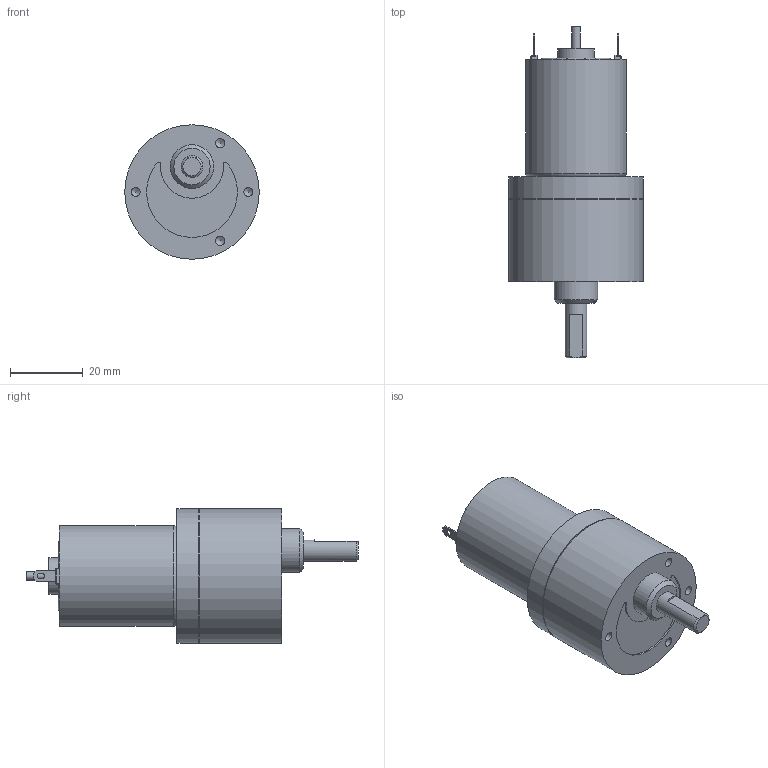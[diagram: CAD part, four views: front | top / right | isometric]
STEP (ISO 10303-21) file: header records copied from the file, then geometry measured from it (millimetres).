
FILE_DESCRIPTION((''),'2;1');
FILE_NAME('C:\Documents and Settings\SSEGAWA\デスクトップ\TP-2732D-HM-4.STP','2013-07-01T11:43:07',('SSEGAWA'),(''),'Autodesk Inventor 2010','Autodesk Inventor 2010','');
FILE_SCHEMA(('CONFIG_CONTROL_DESIGN'));
Length unit declared in the file: millimetre
Products named in the file (3): tp_2732def_hm_4; hm_4; tp_2732d,e,f
Assembly tree (2 placements, depth 2):
  tp_2732def_hm_4
    hm_4
    tp_2732d,e,f
Bounding box: 37 x 91.3 x 37 mm (x, y, z)
Volume: 51602.1 mm3; surface area: 10762.2 mm2
Topology: 2 solids, 2 shells, 147 faces, 323 edges, 206 vertices
Faces by surface type: plane 85, cylinder 35, bspline 21, torus 4, cone 2
Full cylindrical faces by diameter (mm): 2 x2, 2.305 x2, 2.5 x5, 6 x1, 9 x2, 10 x2, 12 x1, 19 x1, 26.7 x1, 27.7 x1, 36.6 x1, 37 x2
Entity records: 3949 total; most frequent: CARTESIAN_POINT 874, DIRECTION 629, ORIENTED_EDGE 538, EDGE_CURVE 269, AXIS2_PLACEMENT_3D 231, EDGE_LOOP 215, VERTEX_POINT 190, VECTOR 167
